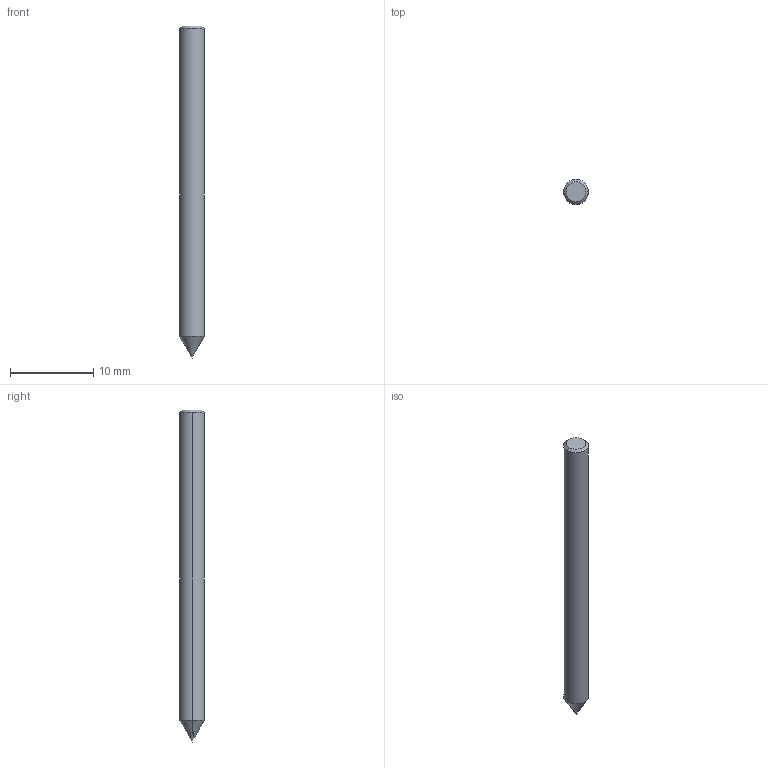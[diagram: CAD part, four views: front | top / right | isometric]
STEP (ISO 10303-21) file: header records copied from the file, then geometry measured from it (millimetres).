
FILE_DESCRIPTION (( 'STEP AP214' ), '1' );
FILE_NAME ('745.030.00_3D-model.step', '2022-02-19T09:44:05', ( '' ), ( '' ), 'SwSTEP 2.0', 'SolidWorks 2020', '' );
FILE_SCHEMA (( 'AUTOMOTIVE_DESIGN' ));
Length unit declared in the file: millimetre
Products named in the file (3): NOCUT-3D^Baugr61; CUT-3D^Baugr61; 745.030.00_3D-model
Assembly tree (2 placements, depth 2):
  745.030.00_3D-model
    CUT-3D^Baugr61
    NOCUT-3D^Baugr61
Bounding box: 3 x 3 x 40 mm (x, y, z)
Volume: 270.1 mm3; surface area: 386.1 mm2
Topology: 2 solids, 2 shells, 9 faces, 16 edges, 9 vertices
Faces by surface type: cone 4, plane 3, cylinder 2
Entity records: 330 total; most frequent: DIRECTION 56, CARTESIAN_POINT 40, ORIENTED_EDGE 28, AXIS2_PLACEMENT_3D 25, EDGE_CURVE 14, FACE_OUTER_BOUND 9, ADVANCED_FACE 9, VERTEX_POINT 9
